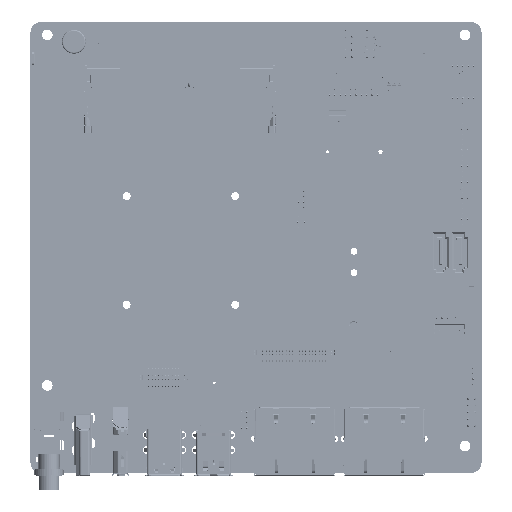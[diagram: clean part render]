
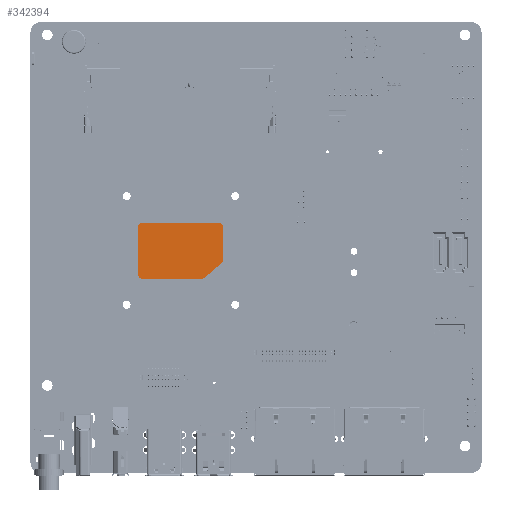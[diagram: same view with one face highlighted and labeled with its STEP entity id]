
A CAD part, top view. The second image highlights one B-rep face of the part: STEP entity #342394.
In plain terms, the highlighted planar face has unit normal (0, 0, 1) as drawn and (0, 1, 0) by its records, which use the part's own axes.
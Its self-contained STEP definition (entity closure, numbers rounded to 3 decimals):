
#341861=DIRECTION('',(-1.,0.,0.));
#341862=VECTOR('',#341861,28.2);
#341863=CARTESIAN_POINT('',(14.1,2.534,10.6));
#341864=LINE('',#341863,#341862);
#341865=CARTESIAN_POINT('',(-14.1,2.534,8.6));
#341866=DIRECTION('',(0.,1.,0.));
#341867=DIRECTION('',(-1.,0.,0.));
#341868=AXIS2_PLACEMENT_3D('',#341865,#341866,#341867);
#341870=DIRECTION('',(0.,0.,-1.));
#341871=VECTOR('',#341870,11.839);
#341872=CARTESIAN_POINT('',(-16.1,2.534,8.6));
#341873=LINE('',#341872,#341871);
#341874=CARTESIAN_POINT('',(-14.1,2.534,-3.239));
#341875=DIRECTION('',(0.,1.,0.));
#341876=DIRECTION('',(-0.659,0.,-0.753));
#341877=AXIS2_PLACEMENT_3D('',#341874,#341875,#341876);
#341879=DIRECTION('',(0.753,0.,-0.659));
#341880=VECTOR('',#341879,8.142);
#341881=CARTESIAN_POINT('',(-15.417,2.534,-4.744));
#341882=LINE('',#341881,#341880);
#341883=CARTESIAN_POINT('',(-7.973,2.534,-8.6));
#341884=DIRECTION('',(0.,1.,0.));
#341885=DIRECTION('',(0.,0.,-1.));
#341886=AXIS2_PLACEMENT_3D('',#341883,#341884,#341885);
#341888=DIRECTION('',(1.,0.,0.));
#341889=VECTOR('',#341888,22.073);
#341890=CARTESIAN_POINT('',(-7.973,2.534,-10.6));
#341891=LINE('',#341890,#341889);
#341892=CARTESIAN_POINT('',(14.1,2.534,-8.6));
#341893=DIRECTION('',(0.,1.,0.));
#341894=DIRECTION('',(1.,0.,0.));
#341895=AXIS2_PLACEMENT_3D('',#341892,#341893,#341894);
#341897=DIRECTION('',(0.,0.,1.));
#341898=VECTOR('',#341897,17.2);
#341899=CARTESIAN_POINT('',(16.1,2.534,-8.6));
#341900=LINE('',#341899,#341898);
#341901=CARTESIAN_POINT('',(14.1,2.534,8.6));
#341902=DIRECTION('',(0.,1.,0.));
#341903=DIRECTION('',(0.,0.,1.));
#341904=AXIS2_PLACEMENT_3D('',#341901,#341902,#341903);
#342135=CARTESIAN_POINT('',(14.1,2.534,10.6));
#342136=CARTESIAN_POINT('',(-14.1,2.534,10.6));
#342137=VERTEX_POINT('',#342135);
#342138=VERTEX_POINT('',#342136);
#342139=CARTESIAN_POINT('',(-16.1,2.534,8.6));
#342140=VERTEX_POINT('',#342139);
#342141=CARTESIAN_POINT('',(-16.1,2.534,-3.239));
#342142=VERTEX_POINT('',#342141);
#342143=CARTESIAN_POINT('',(-15.417,2.534,-4.744));
#342144=VERTEX_POINT('',#342143);
#342145=CARTESIAN_POINT('',(-9.29,2.534,-10.105));
#342146=VERTEX_POINT('',#342145);
#342147=CARTESIAN_POINT('',(-7.973,2.534,-10.6));
#342148=VERTEX_POINT('',#342147);
#342149=CARTESIAN_POINT('',(14.1,2.534,-10.6));
#342150=VERTEX_POINT('',#342149);
#342151=CARTESIAN_POINT('',(16.1,2.534,-8.6));
#342152=VERTEX_POINT('',#342151);
#342153=CARTESIAN_POINT('',(16.1,2.534,8.6));
#342154=VERTEX_POINT('',#342153);
#342368=CARTESIAN_POINT('',(0.,2.534,0.));
#342369=DIRECTION('',(0.,1.,0.));
#342370=DIRECTION('',(1.,0.,0.));
#342371=AXIS2_PLACEMENT_3D('',#342368,#342369,#342370);
#342372=PLANE('',#342371);
#342373=ORIENTED_EDGE('',*,*,#342358,.T.);
#342375=ORIENTED_EDGE('',*,*,#342374,.F.);
#342377=ORIENTED_EDGE('',*,*,#342376,.T.);
#342379=ORIENTED_EDGE('',*,*,#342378,.F.);
#342381=ORIENTED_EDGE('',*,*,#342380,.T.);
#342383=ORIENTED_EDGE('',*,*,#342382,.F.);
#342385=ORIENTED_EDGE('',*,*,#342384,.T.);
#342387=ORIENTED_EDGE('',*,*,#342386,.F.);
#342389=ORIENTED_EDGE('',*,*,#342388,.T.);
#342391=ORIENTED_EDGE('',*,*,#342390,.F.);
#342392=EDGE_LOOP('',(#342373,#342375,#342377,#342379,#342381,#342383,#342385,
#342387,#342389,#342391));
#342393=FACE_OUTER_BOUND('',#342392,.F.);
#342394=ADVANCED_FACE('',(#342393),#342372,.T.);
#341869=CIRCLE('',#341868,2.);
#341878=CIRCLE('',#341877,2.);
#341887=CIRCLE('',#341886,2.);
#341896=CIRCLE('',#341895,2.);
#341905=CIRCLE('',#341904,2.);
#342358=EDGE_CURVE('',#342137,#342138,#341864,.T.);
#342374=EDGE_CURVE('',#342140,#342138,#341869,.T.);
#342376=EDGE_CURVE('',#342140,#342142,#341873,.T.);
#342378=EDGE_CURVE('',#342144,#342142,#341878,.T.);
#342380=EDGE_CURVE('',#342144,#342146,#341882,.T.);
#342382=EDGE_CURVE('',#342148,#342146,#341887,.T.);
#342384=EDGE_CURVE('',#342148,#342150,#341891,.T.);
#342386=EDGE_CURVE('',#342152,#342150,#341896,.T.);
#342388=EDGE_CURVE('',#342152,#342154,#341900,.T.);
#342390=EDGE_CURVE('',#342137,#342154,#341905,.T.);
